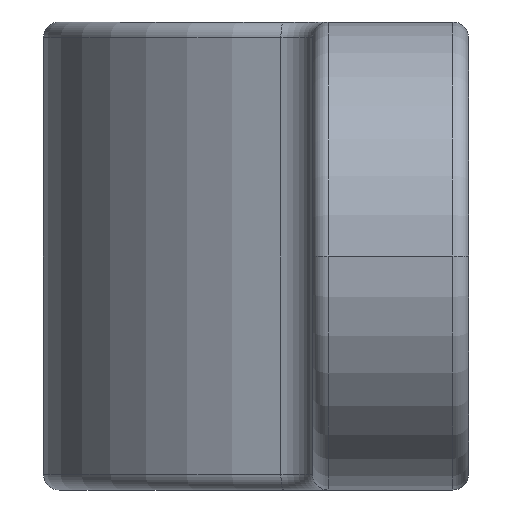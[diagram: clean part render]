
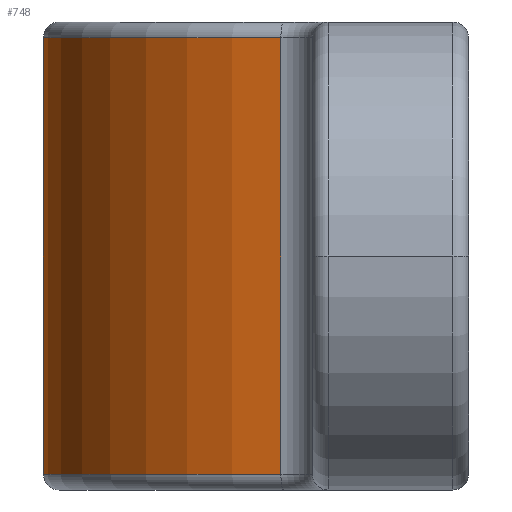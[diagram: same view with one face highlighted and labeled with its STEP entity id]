
A CAD part, left-side view. The second image highlights one B-rep face of the part: STEP entity #748.
In plain terms, the highlighted cylindrical face has radius 3.75 mm (diameter 7.5 mm), a partial arc.
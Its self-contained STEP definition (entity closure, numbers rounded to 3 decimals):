
#142 = EDGE_CURVE ( 'NONE', #1089, #201, #1302, .T. ) ;
#162 = CARTESIAN_POINT ( 'NONE',  ( 0., 0., 3. ) ) ;
#201 = VERTEX_POINT ( 'NONE', #1387 ) ;
#224 = CARTESIAN_POINT ( 'NONE',  ( 0., 0., -2.8 ) ) ;
#279 = CARTESIAN_POINT ( 'NONE',  ( 3.683, 0.706, -2.8 ) ) ;
#314 = CYLINDRICAL_SURFACE ( 'NONE', #917, 3.75 ) ;
#317 = DIRECTION ( 'NONE',  ( 0., 0., -1. ) ) ;
#419 = EDGE_LOOP ( 'NONE', ( #564, #1180, #1453, #797 ) ) ;
#481 = EDGE_CURVE ( 'NONE', #201, #683, #1211, .T. ) ;
#529 = FACE_OUTER_BOUND ( 'NONE', #419, .T. ) ;
#537 = EDGE_CURVE ( 'NONE', #683, #1468, #621, .T. ) ;
#558 = DIRECTION ( 'NONE',  ( 0., 0., -1. ) ) ;
#564 = ORIENTED_EDGE ( 'NONE', *, *, #785, .T. ) ;
#582 = DIRECTION ( 'NONE',  ( 0., 0., 1. ) ) ;
#621 = CIRCLE ( 'NONE', #1166, 3.75 ) ;
#683 = VERTEX_POINT ( 'NONE', #279 ) ;
#748 = ADVANCED_FACE ( 'NONE', ( #529 ), #314, .T. ) ;
#750 = CARTESIAN_POINT ( 'NONE',  ( -3.683, 0.706, -2.8 ) ) ;
#785 = EDGE_CURVE ( 'NONE', #1468, #1089, #1521, .T. ) ;
#797 = ORIENTED_EDGE ( 'NONE', *, *, #537, .T. ) ;
#824 = DIRECTION ( 'NONE',  ( 0., 0., -1. ) ) ;
#835 = VECTOR ( 'NONE', #1146, 1000. ) ;
#851 = CARTESIAN_POINT ( 'NONE',  ( 3.683, 0.706, 3. ) ) ;
#917 = AXIS2_PLACEMENT_3D ( 'NONE', #162, #558, #1054 ) ;
#1054 = DIRECTION ( 'NONE',  ( -1., 0., 0. ) ) ;
#1057 = CARTESIAN_POINT ( 'NONE',  ( 0., 0., 2.8 ) ) ;
#1089 = VERTEX_POINT ( 'NONE', #1202 ) ;
#1146 = DIRECTION ( 'NONE',  ( 0., 0., 1. ) ) ;
#1166 = AXIS2_PLACEMENT_3D ( 'NONE', #224, #582, #1315 ) ;
#1180 = ORIENTED_EDGE ( 'NONE', *, *, #142, .T. ) ;
#1192 = VECTOR ( 'NONE', #824, 1000. ) ;
#1202 = CARTESIAN_POINT ( 'NONE',  ( -3.683, 0.706, 2.8 ) ) ;
#1211 = LINE ( 'NONE', #851, #1192 ) ;
#1302 = CIRCLE ( 'NONE', #1438, 3.75 ) ;
#1315 = DIRECTION ( 'NONE',  ( 1., 0., 0. ) ) ;
#1317 = DIRECTION ( 'NONE',  ( 1., 0., 0. ) ) ;
#1387 = CARTESIAN_POINT ( 'NONE',  ( 3.683, 0.706, 2.8 ) ) ;
#1402 = CARTESIAN_POINT ( 'NONE',  ( -3.683, 0.706, 3. ) ) ;
#1438 = AXIS2_PLACEMENT_3D ( 'NONE', #1057, #317, #1317 ) ;
#1453 = ORIENTED_EDGE ( 'NONE', *, *, #481, .T. ) ;
#1468 = VERTEX_POINT ( 'NONE', #750 ) ;
#1521 = LINE ( 'NONE', #1402, #835 ) ;
